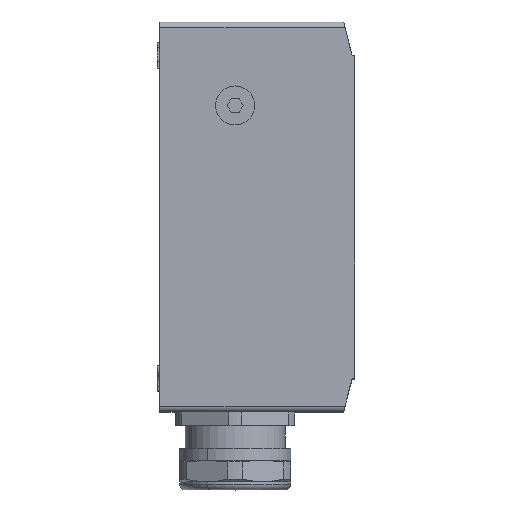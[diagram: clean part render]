
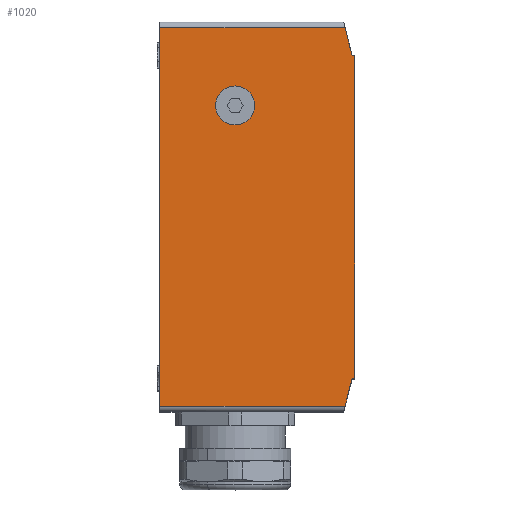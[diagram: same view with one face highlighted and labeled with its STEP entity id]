
A CAD part, top view. The second image highlights one B-rep face of the part: STEP entity #1020.
In plain terms, the highlighted planar face has unit normal (0, 0, 1) as drawn and (0, 0, -1) by its records, which use the part's own axes.
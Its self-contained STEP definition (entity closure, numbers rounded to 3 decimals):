
#220 = AXIS2_PLACEMENT_3D ( 'NONE', #9638, #9639, #9640 ) ;
#592 = AXIS2_PLACEMENT_3D ( 'NONE', #15139, #15140, #15141 ) ;
#1020 = ADVANCED_FACE ( 'NONE', ( #8667, #8670 ), #1427, .F. ) ;
#1421 = CARTESIAN_POINT ( 'NONE',  ( -112.15, 25., -113.5 ) ) ;
#1427 = PLANE ( 'NONE',  #19673 ) ;
#1429 = DIRECTION ( 'NONE',  ( 0., 0., 1. ) ) ;
#1430 = DIRECTION ( 'NONE',  ( 0., 1., 0. ) ) ;
#3474 = EDGE_CURVE ( 'NONE', #19183, #3796, #15799, .T. ) ;
#3476 = EDGE_CURVE ( 'NONE', #3796, #19021, #15827, .T. ) ;
#3478 = EDGE_CURVE ( 'NONE', #3877, #19021, #15828, .T. ) ;
#3480 = EDGE_CURVE ( 'NONE', #3877, #18488, #15829, .T. ) ;
#3483 = EDGE_CURVE ( 'NONE', #18488, #3759, #15831, .T. ) ;
#3485 = EDGE_CURVE ( 'NONE', #3759, #18412, #15833, .T. ) ;
#3487 = EDGE_CURVE ( 'NONE', #3984, #19064, #15837, .T. ) ;
#3492 = EDGE_CURVE ( 'NONE', #19183, #5718, #15835, .T. ) ;
#3544 = EDGE_CURVE ( 'NONE', #5718, #18412, #15872, .T. ) ;
#3759 = VERTEX_POINT ( 'NONE', #4527 ) ;
#3796 = VERTEX_POINT ( 'NONE', #4596 ) ;
#3877 = VERTEX_POINT ( 'NONE', #4747 ) ;
#3984 = VERTEX_POINT ( 'NONE', #4945 ) ;
#4527 = CARTESIAN_POINT ( 'NONE',  ( -112.15, 39.5, -113.5 ) ) ;
#4596 = CARTESIAN_POINT ( 'NONE',  ( 13.85, 42., -113.5 ) ) ;
#4747 = CARTESIAN_POINT ( 'NONE',  ( -102.15, 43., -113.5 ) ) ;
#4945 = CARTESIAN_POINT ( 'NONE',  ( -4.15, -7., -113.5 ) ) ;
#5361 = CARTESIAN_POINT ( 'NONE',  ( 23.85, -27., -113.5 ) ) ;
#5718 = VERTEX_POINT ( 'NONE', #5361 ) ;
#6838 = EDGE_CURVE ( 'NONE', #19064, #3984, #14176, .T. ) ;
#8667 = FACE_BOUND ( 'NONE', #22200, .T. ) ;
#8670 = FACE_OUTER_BOUND ( 'NONE', #14324, .T. ) ;
#9612 = CARTESIAN_POINT ( 'NONE',  ( 23.85, 43., -113.5 ) ) ;
#9613 = CARTESIAN_POINT ( 'NONE',  ( 13.85, 42., -113.5 ) ) ;
#9624 = CARTESIAN_POINT ( 'NONE',  ( 25.85, 39., -113.5 ) ) ;
#9625 = CARTESIAN_POINT ( 'NONE',  ( -102.15, 42., -113.5 ) ) ;
#9626 = DIRECTION ( 'NONE',  ( -0.97, 0.243, 0. ) ) ;
#9627 = DIRECTION ( 'NONE',  ( 0., 1., 0. ) ) ;
#9628 = CARTESIAN_POINT ( 'NONE',  ( -114.15, 39., -113.5 ) ) ;
#9629 = DIRECTION ( 'NONE',  ( 1., 0., 0. ) ) ;
#9630 = CARTESIAN_POINT ( 'NONE',  ( -112.15, 25., -113.5 ) ) ;
#9631 = DIRECTION ( 'NONE',  ( 0., -1., 0. ) ) ;
#9632 = DIRECTION ( 'NONE',  ( -0.97, -0.243, 0. ) ) ;
#9633 = CARTESIAN_POINT ( 'NONE',  ( 23.85, 25., -113.5 ) ) ;
#9634 = DIRECTION ( 'NONE',  ( 0., -1., 0. ) ) ;
#9638 = CARTESIAN_POINT ( 'NONE',  ( -4.15, 0., -113.5 ) ) ;
#9639 = DIRECTION ( 'NONE',  ( 0., 0., 1. ) ) ;
#9640 = DIRECTION ( 'NONE',  ( 0., 1., 0. ) ) ;
#9643 = DIRECTION ( 'NONE',  ( 0., -1., 0. ) ) ;
#9696 = CARTESIAN_POINT ( 'NONE',  ( -112.15, -27., -113.5 ) ) ;
#9700 = DIRECTION ( 'NONE',  ( -1., 0., 0. ) ) ;
#12277 = ORIENTED_EDGE ( 'NONE', *, *, #6838, .T. ) ;
#12278 = ORIENTED_EDGE ( 'NONE', *, *, #3487, .T. ) ;
#12279 = ORIENTED_EDGE ( 'NONE', *, *, #3485, .F. ) ;
#12281 = ORIENTED_EDGE ( 'NONE', *, *, #3483, .F. ) ;
#12320 = ORIENTED_EDGE ( 'NONE', *, *, #3480, .F. ) ;
#12321 = ORIENTED_EDGE ( 'NONE', *, *, #3478, .T. ) ;
#12324 = ORIENTED_EDGE ( 'NONE', *, *, #3476, .F. ) ;
#12325 = ORIENTED_EDGE ( 'NONE', *, *, #3474, .F. ) ;
#12326 = ORIENTED_EDGE ( 'NONE', *, *, #3492, .T. ) ;
#12328 = ORIENTED_EDGE ( 'NONE', *, *, #3544, .T. ) ;
#14176 = CIRCLE ( 'NONE', #592, 7. ) ;
#14324 = EDGE_LOOP ( 'NONE', ( #12279, #12281, #12320, #12321, #12324, #12325, #12326, #12328 ) ) ;
#15139 = CARTESIAN_POINT ( 'NONE',  ( -4.15, 0., -113.5 ) ) ;
#15140 = DIRECTION ( 'NONE',  ( 0., 0., 1. ) ) ;
#15141 = DIRECTION ( 'NONE',  ( 0., 1., 0. ) ) ;
#15799 = LINE ( 'NONE', #9624, #15826 ) ;
#15826 = VECTOR ( 'NONE', #9626, 1000. ) ;
#15827 = LINE ( 'NONE', #9613, #15830 ) ;
#15828 = LINE ( 'NONE', #9612, #15832 ) ;
#15829 = LINE ( 'NONE', #9625, #15834 ) ;
#15830 = VECTOR ( 'NONE', #9627, 1000. ) ;
#15831 = LINE ( 'NONE', #9628, #15836 ) ;
#15832 = VECTOR ( 'NONE', #9629, 1000. ) ;
#15833 = LINE ( 'NONE', #9630, #15838 ) ;
#15834 = VECTOR ( 'NONE', #9631, 1000. ) ;
#15835 = LINE ( 'NONE', #9633, #15840 ) ;
#15836 = VECTOR ( 'NONE', #9632, 1000. ) ;
#15837 = CIRCLE ( 'NONE', #220, 7. ) ;
#15838 = VECTOR ( 'NONE', #9634, 1000. ) ;
#15840 = VECTOR ( 'NONE', #9643, 1000. ) ;
#15872 = LINE ( 'NONE', #9696, #15879 ) ;
#15879 = VECTOR ( 'NONE', #9700, 1000. ) ;
#17799 = CARTESIAN_POINT ( 'NONE',  ( -112.15, -27., -113.5 ) ) ;
#17875 = CARTESIAN_POINT ( 'NONE',  ( -102.15, 42., -113.5 ) ) ;
#17926 = CARTESIAN_POINT ( 'NONE',  ( 13.85, 43., -113.5 ) ) ;
#17969 = CARTESIAN_POINT ( 'NONE',  ( -4.15, 7., -113.5 ) ) ;
#18088 = CARTESIAN_POINT ( 'NONE',  ( 23.85, 39.5, -113.5 ) ) ;
#18412 = VERTEX_POINT ( 'NONE', #17799 ) ;
#18488 = VERTEX_POINT ( 'NONE', #17875 ) ;
#19021 = VERTEX_POINT ( 'NONE', #17926 ) ;
#19064 = VERTEX_POINT ( 'NONE', #17969 ) ;
#19183 = VERTEX_POINT ( 'NONE', #18088 ) ;
#19673 = AXIS2_PLACEMENT_3D ( 'NONE', #1421, #1429, #1430 ) ;
#22200 = EDGE_LOOP ( 'NONE', ( #12277, #12278 ) ) ;
